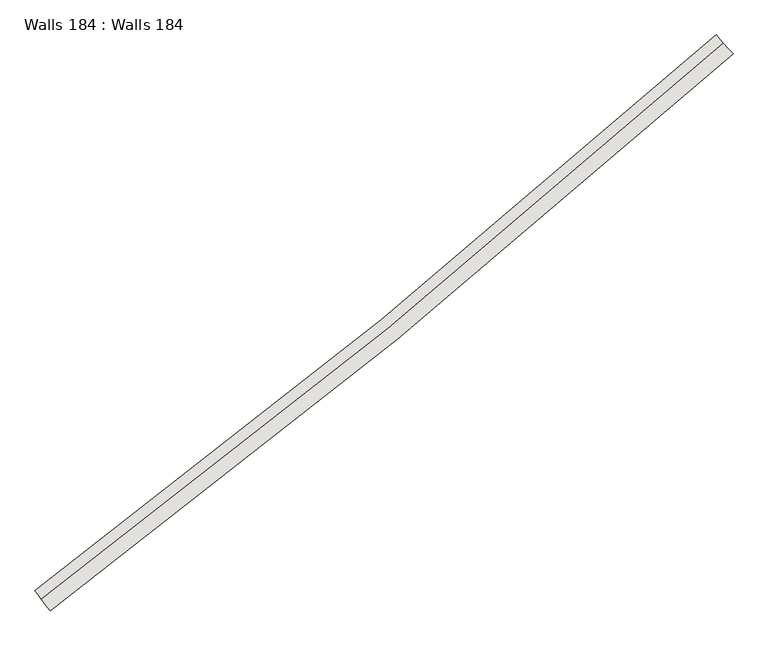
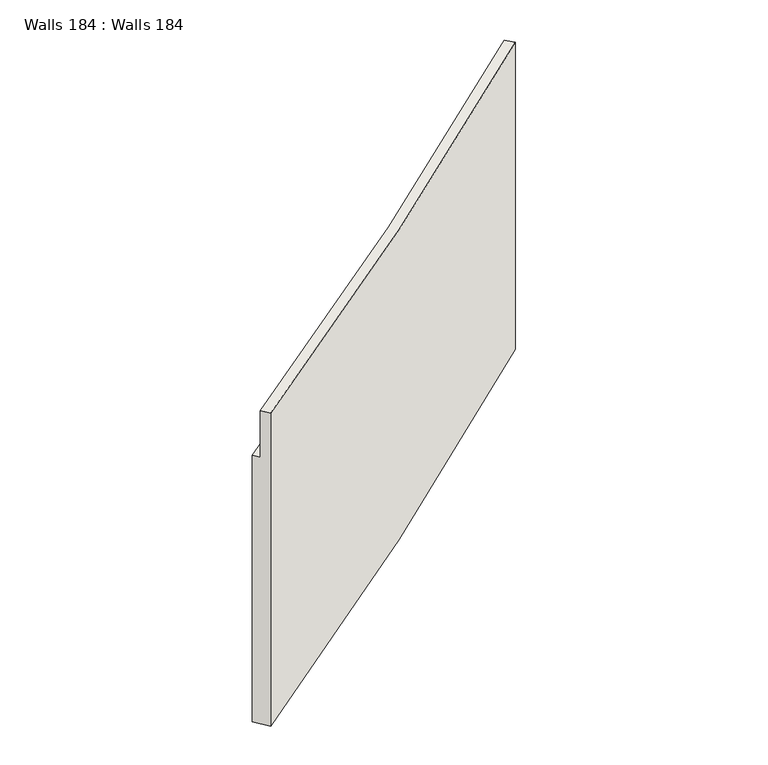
"""IFC4 building model written with IfcOpenShell, lengths in millimetres: wall geometry, Walls 184 : Walls 184."""

from ifc_helpers import new_model, si_unit, frame, origin, place, context, project, spatial, source, transform, mapped, element, save
from ifc_brep_helpers import plane_surface, spline_curve, spline_surface, advanced_brep


def walls_184_walls_184_67948a51(model_context):
    return source(origin(), model_context, "Body", "AdvancedBrep", [
        advanced_brep(
        [(317970.7590689, 234271.6354095, 643879.9926706), (318180.8504058, 233991.7039354, 643879.9926706), (318180.8504058, 233991.7039354, 650590.1663549), (318060.7982133, 234151.6647777, 650590.1663549), (318060.7982133, 234151.6647777, 649590.1663549), (317970.7590689, 234271.6354095, 649590.1663549), (327331.3709931, 241906.3993551, 644040.0505269), (327331.3709931, 241906.3993551, 649620.0505269), (327430.7926419, 241794.0813434, 649620.0505269), (327430.7926419, 241794.0813434, 650620.0505269), (327563.3548403, 241644.3239945, 650620.0505269), (327563.3548403, 241644.3239945, 644040.0505269)],
        [
            (0, 1),
            (1, 2),
            (2, 3),
            (3, 4),
            (4, 5),
            (5, 0),
            (6, 7),
            (7, 8),
            (8, 9),
            (9, 10),
            (10, 11),
            (11, 6),
            (11, 1, spline_curve(3, [(327563.3548403, 241644.3239945, 644040.0505269), (326051.942587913, 240306.452214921, 644013.374217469), (324513.522004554, 238999.092186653, 643986.697908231), (321385.170949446, 236447.525894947, 643933.345289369), (319795.240476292, 235203.319632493, 643906.668980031), (318180.8504058, 233991.7039354, 643879.9926706)], [4, 2, 4], [0.0, 19.844112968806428, 39.6882259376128])),
            (0, 6, spline_curve(3, [(317970.7590689, 234271.6354095, 643879.9926706), (319581.382229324, 235480.424003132, 643906.668980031), (321167.602864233, 236721.727118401, 643933.345289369), (324288.654434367, 239267.339754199, 643986.697908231), (325823.485369, 240571.649276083, 644013.374217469), (327331.3709931, 241906.3993551, 644040.0505269)], [4, 2, 4], [0.0, 19.84411296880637, 39.6882259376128])),
            (10, 2, spline_curve(3, [(327563.3548403, 241644.3239945, 650620.0505269), (326051.942587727, 240306.452214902, 650615.069831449), (324513.522004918, 238999.092186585, 650610.089136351), (321385.170949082, 236447.525895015, 650600.127745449), (319795.240476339, 235203.319632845, 650595.147050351), (318180.8504058, 233991.7039354, 650590.1663549)], [4, 2, 4], [0.0, 19.866163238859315, 39.73232647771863])),
            (9, 3, spline_curve(3, [(327430.7926419, 241794.0813434, 650620.0505269), (325921.395605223, 240457.993392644, 650615.069831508), (324385.02625031, 239152.376510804, 650610.089136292), (321260.84632909, 236604.212308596, 650600.127745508), (319673.035763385, 235361.664987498, 650595.147050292), (318060.7982133, 234151.6647777, 650590.1663549)], [4, 2, 4], [0.0, 19.85236918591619, 39.70473837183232])),
            (8, 4, spline_curve(3, [(327430.7926419, 241794.0813434, 649620.0505269), (325921.395605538, 240457.993392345, 649615.069831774), (324385.026250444, 239152.376511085, 649610.089136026), (321260.846328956, 236604.212308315, 649600.127745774), (319673.035763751, 235361.664987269, 649595.147050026), (318060.7982133, 234151.6647777, 649590.1663549)], [4, 2, 4], [0.0, 19.83912552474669, 39.678251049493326])),
            (7, 5, spline_curve(3, [(327331.3709931, 241906.3993551, 649620.0505269), (325823.485369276, 240571.649276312, 649615.06983158), (324288.65443395, 239267.339754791, 649610.08913622), (321167.60286465, 236721.727117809, 649600.12774558), (319581.382229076, 235480.424003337, 649595.14705022), (317970.7590689, 234271.6354095, 649590.1663549)], [4, 2, 4], [0.0, 19.829192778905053, 39.65838555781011])),
        ],
        [
            plane_surface(frame((318070.8025627, 234138.3347075, 648020.1084601), z_axis=(-0.7998042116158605, -0.6002609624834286, 0.0), x_axis=(0.6002609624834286, -0.7998042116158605, 0.0))),
            plane_surface(frame((327441.8394917, 241781.6015643, 648093.3838602), z_axis=(0.7487867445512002, 0.6628109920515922, 1.3196669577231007e-12), x_axis=(0.6628109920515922, -0.7487867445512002, 0.0))),
            spline_surface(3, 3, [[(327331.3709931, 241906.3993551, 644040.0505269), (325823.485368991, 240571.649276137, 644013.37421752), (324288.654434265, 239267.3397545, 643986.69790818), (321167.602864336, 236721.7271181, 643933.34528942), (319581.382229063, 235480.424003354, 643906.66897998), (317970.7590689, 234271.6354095, 643879.9926706)], [(327370.034967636, 241862.720128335, 644040.0505269), (325861.561572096, 240527.449765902, 644013.37421752), (324326.132362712, 239222.631826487, 643986.69790818), (321203.864211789, 236676.026914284, 643933.34528942), (319617.025270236, 235434.239941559, 643906.66897998), (318005.774291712, 234224.980163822, 643879.9926706)], [(327408.698942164, 241819.040901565, 644040.0505269), (325899.637775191, 240483.250255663, 644013.37421752), (324363.610291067, 239177.923898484, 643986.69790818), (321240.125559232, 236630.326710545, 643933.34528942), (319652.668311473, 235388.055879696, 643906.66897998), (318040.789514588, 234178.324918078, 643879.9926706)], [(327486.026891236, 241731.682448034, 644040.0505269), (325975.790181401, 240394.851235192, 644013.37421752), (324438.566147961, 239088.508042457, 643986.69790818), (321312.64825414, 236538.926302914, 643933.34528942), (319723.954393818, 235295.687756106, 643906.66897998), (318110.819960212, 234085.014426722, 643879.9926706)], [(327524.690865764, 241688.003221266, 644040.0505269), (326013.866384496, 240350.651724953, 644013.37421752), (324476.044076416, 239043.800114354, 643986.69790818), (321348.909601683, 236493.226099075, 643933.34528942), (319759.597434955, 235249.503694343, 643906.66897998), (318145.835182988, 234038.359181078, 643879.9926706)], [(327563.3548403, 241644.3239945, 644040.0505269), (326051.942587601, 240306.452214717, 644013.37421752), (324513.522004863, 238999.09218634, 643986.69790818), (321385.170949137, 236447.52589526, 643933.34528942), (319795.240476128, 235203.319632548, 643906.66897998), (318180.8504058, 233991.7039354, 643879.9926706)]], [4, 2, 4], [4, 2, 4], [0.0, 0.5741469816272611, 1.1482939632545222], [0.0, 19.844112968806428, 39.6882259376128]),
            spline_surface(3, 3, [[(327563.3548403, 241644.3239945, 644040.0505269), (326051.942587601, 240306.452214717, 644013.37421752), (324513.522004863, 238999.09218634, 643986.69790818), (321385.170949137, 236447.52589526, 643933.34528942), (319795.240476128, 235203.319632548, 643906.66897998), (318180.8504058, 233991.7039354, 643879.9926706)], [(327563.3548403, 241644.3239945, 645136.717193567), (326051.942587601, 240306.452214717, 645113.65681986), (324513.522004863, 238999.09218634, 645090.596446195), (321385.170949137, 236447.52589526, 645044.475698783), (319795.240476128, 235203.319632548, 645021.415325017), (318180.8504058, 233991.7039354, 644998.354951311)], [(327563.3548403, 241644.3239945, 646233.383860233), (326051.942587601, 240306.452214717, 646213.939422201), (324513.522004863, 238999.09218634, 646194.494984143), (321385.170949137, 236447.52589526, 646155.606108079), (319795.240476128, 235203.319632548, 646136.161670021), (318180.8504058, 233991.7039354, 646116.717231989)], [(327563.3548403, 241644.3239945, 648426.717193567), (326051.942587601, 240306.452214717, 648414.504626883), (324513.522004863, 238999.09218634, 648402.292060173), (321385.170949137, 236447.52589526, 648377.866926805), (319795.240476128, 235203.319632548, 648365.654360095), (318180.8504058, 233991.7039354, 648353.441793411)], [(327563.3548403, 241644.3239945, 649523.383860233), (326051.942587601, 240306.452214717, 649514.787229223), (324513.522004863, 238999.09218634, 649506.190598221), (321385.170949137, 236447.52589526, 649488.997336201), (319795.240476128, 235203.319632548, 649480.400705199), (318180.8504058, 233991.7039354, 649471.804074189)], [(327563.3548403, 241644.3239945, 650620.0505269), (326051.942587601, 240306.452214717, 650615.069831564), (324513.522004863, 238999.09218634, 650610.089136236), (321385.170949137, 236447.52589526, 650600.127745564), (319795.240476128, 235203.319632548, 650595.147050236), (318180.8504058, 233991.7039354, 650590.1663549)]], [4, 2, 4], [4, 2, 4], [0.0, 10.900733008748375, 21.80146601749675], [0.0, 19.866163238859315, 39.73232647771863]),
            spline_surface(3, 3, [[(327563.3548403, 241644.3239945, 650620.0505269), (326051.942587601, 240306.452214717, 650615.069831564), (324513.522004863, 238999.09218634, 650610.089136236), (321385.170949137, 236447.52589526, 650600.127745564), (319795.240476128, 235203.319632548, 650595.147050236), (318180.8504058, 233991.7039354, 650590.1663549)], [(327541.261140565, 241669.283552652, 650620.0505269), (326030.184757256, 240331.709077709, 650615.069831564), (324492.10604575, 239024.639573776, 650610.089136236), (321364.450179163, 236473.64029744, 650600.127745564), (319774.873024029, 235229.710525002, 650595.147050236), (318160.841707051, 234018.364075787, 650590.1663549)], [(327519.167440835, 241694.243110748, 650620.0505269), (326008.426926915, 240356.965940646, 650615.069831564), (324470.69008659, 239050.186961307, 650610.089136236), (321343.729409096, 236499.754699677, 650600.127745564), (319754.505571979, 235256.101417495, 650595.147050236), (318140.833008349, 234045.024216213, 650590.1663549)], [(327474.980041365, 241744.162227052, 650620.0505269), (325964.911266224, 240407.479666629, 650615.069831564), (324427.858168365, 239101.281736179, 650610.089136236), (321302.287869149, 236551.983504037, 650600.127745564), (319713.770667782, 235308.883202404, 650595.147050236), (318100.815610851, 234098.344496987, 650590.1663549)], [(327452.886341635, 241769.121785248, 650620.0505269), (325943.153435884, 240432.736529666, 650615.069831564), (324406.442209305, 239126.82912361, 650610.089136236), (321281.567099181, 236578.097906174, 650600.127745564), (319693.403215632, 235335.274094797, 650595.147050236), (318080.806912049, 234125.004637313, 650590.1663549)], [(327430.7926419, 241794.0813434, 650620.0505269), (325921.395605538, 240457.993392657, 650615.069831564), (324385.026250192, 239152.376511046, 650610.089136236), (321260.846329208, 236604.212308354, 650600.127745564), (319673.035763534, 235361.664987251, 650595.147050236), (318060.7982133, 234151.6647777, 650590.1663549)]], [4, 2, 4], [4, 2, 4], [0.0, 0.3280839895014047, 0.6561679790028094], [0.0, 19.85236918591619, 39.70473837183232]),
            spline_surface(3, 3, [[(327430.7926419, 241794.0813434, 650620.0505269), (325921.395605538, 240457.993392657, 650615.069831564), (324385.026250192, 239152.376511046, 650610.089136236), (321260.846329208, 236604.212308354, 650600.127745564), (319673.035763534, 235361.664987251, 650595.147050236), (318060.7982133, 234151.6647777, 650590.1663549)], [(327430.7926419, 241794.0813434, 650453.383860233), (325921.395605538, 240457.993392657, 650448.403164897), (324385.026250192, 239152.376511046, 650443.422469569), (321260.846329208, 236604.212308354, 650433.461078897), (319673.035763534, 235361.664987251, 650428.480383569), (318060.7982133, 234151.6647777, 650423.499688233)], [(327430.7926419, 241794.0813434, 650286.717193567), (325921.395605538, 240457.993392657, 650281.736498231), (324385.026250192, 239152.376511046, 650276.755802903), (321260.846329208, 236604.212308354, 650266.794412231), (319673.035763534, 235361.664987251, 650261.813716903), (318060.7982133, 234151.6647777, 650256.833021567)], [(327430.7926419, 241794.0813434, 649953.383860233), (325921.395605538, 240457.993392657, 649948.403164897), (324385.026250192, 239152.376511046, 649943.422469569), (321260.846329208, 236604.212308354, 649933.461078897), (319673.035763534, 235361.664987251, 649928.480383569), (318060.7982133, 234151.6647777, 649923.499688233)], [(327430.7926419, 241794.0813434, 649786.717193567), (325921.395605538, 240457.993392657, 649781.736498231), (324385.026250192, 239152.376511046, 649776.755802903), (321260.846329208, 236604.212308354, 649766.794412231), (319673.035763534, 235361.664987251, 649761.813716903), (318060.7982133, 234151.6647777, 649756.833021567)], [(327430.7926419, 241794.0813434, 649620.0505269), (325921.395605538, 240457.993392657, 649615.069831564), (324385.026250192, 239152.376511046, 649610.089136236), (321260.846329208, 236604.212308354, 649600.127745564), (319673.035763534, 235361.664987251, 649595.147050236), (318060.7982133, 234151.6647777, 649590.1663549)]], [4, 2, 4], [4, 2, 4], [0.0, 1.6404199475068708, 3.2808398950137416], [0.0, 19.83912552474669, 39.678251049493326]),
            spline_surface(3, 3, [[(327430.7926419, 241794.0813434, 649620.0505269), (325921.395605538, 240457.993392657, 649615.069831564), (324385.026250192, 239152.376511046, 649610.089136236), (321260.846329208, 236604.212308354, 649600.127745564), (319673.035763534, 235361.664987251, 649595.147050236), (318060.7982133, 234151.6647777, 649590.1663549)], [(327414.222367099, 241812.801012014, 649620.0505269), (325905.077232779, 240476.936039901, 649615.069831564), (324368.964280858, 239171.537051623, 649610.089136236), (321245.305751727, 236623.798109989, 649600.127745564), (319657.76017446, 235381.458156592, 649595.147050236), (318045.791689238, 234171.65988299, 649590.1663549)], [(327397.652092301, 241831.520680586, 649620.0505269), (325888.758860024, 240495.878687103, 649615.069831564), (324352.902311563, 239190.697592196, 649610.089136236), (321229.765174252, 236643.383911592, 649600.127745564), (319642.484585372, 235401.251325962, 649595.147050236), (318030.785165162, 234191.65498831, 649590.1663549)], [(327364.511542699, 241868.960017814, 649620.0505269), (325856.122114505, 240533.763981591, 649615.069831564), (324320.778372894, 239229.01867335, 649610.089136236), (321198.684019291, 236682.555514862, 649600.127745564), (319611.933407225, 235440.837664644, 649595.147050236), (318000.772117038, 234231.64519889, 649590.1663549)], [(327347.941267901, 241887.679686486, 649620.0505269), (325839.80374175, 240552.706628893, 649615.069831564), (324304.716403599, 239248.179213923, 649610.089136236), (321183.143441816, 236702.141316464, 649600.127745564), (319596.657818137, 235460.630834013, 649595.147050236), (317985.765592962, 234251.64030421, 649590.1663549)], [(327331.3709931, 241906.3993551, 649620.0505269), (325823.485368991, 240571.649276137, 649615.069831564), (324288.654434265, 239267.3397545, 649610.089136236), (321167.602864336, 236721.7271181, 649600.127745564), (319581.382229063, 235480.424003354, 649595.147050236), (317970.7590689, 234271.6354095, 649590.1663549)]], [4, 2, 4], [4, 2, 4], [0.0, 0.24606299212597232, 0.49212598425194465], [0.0, 19.829192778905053, 39.65838555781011]),
            spline_surface(3, 3, [[(327331.3709931, 241906.3993551, 649620.0505269), (325823.485368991, 240571.649276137, 649615.069831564), (324288.654434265, 239267.3397545, 649610.089136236), (321167.602864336, 236721.7271181, 649600.127745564), (319581.382229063, 235480.424003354, 649595.147050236), (317970.7590689, 234271.6354095, 649590.1663549)], [(327331.3709931, 241906.3993551, 648690.0505269), (325823.485368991, 240571.649276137, 648681.45389589), (324288.654434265, 239267.3397545, 648672.857264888), (321167.602864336, 236721.7271181, 648655.664002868), (319581.382229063, 235480.424003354, 648647.067371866), (317970.7590689, 234271.6354095, 648638.470740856)], [(327331.3709931, 241906.3993551, 647760.0505269), (325823.485368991, 240571.649276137, 647747.837960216), (324288.654434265, 239267.3397545, 647735.625393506), (321167.602864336, 236721.7271181, 647711.200260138), (319581.382229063, 235480.424003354, 647698.987693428), (317970.7590689, 234271.6354095, 647686.775126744)], [(327331.3709931, 241906.3993551, 645900.0505269), (325823.485368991, 240571.649276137, 645880.606088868), (324288.654434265, 239267.3397545, 645861.16165081), (321167.602864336, 236721.7271181, 645822.272774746), (319581.382229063, 235480.424003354, 645802.828336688), (317970.7590689, 234271.6354095, 645783.383898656)], [(327331.3709931, 241906.3993551, 644970.0505269), (325823.485368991, 240571.649276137, 644946.990153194), (324288.654434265, 239267.3397545, 644923.929779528), (321167.602864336, 236721.7271181, 644877.809032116), (319581.382229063, 235480.424003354, 644854.74865835), (317970.7590689, 234271.6354095, 644831.688284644)], [(327331.3709931, 241906.3993551, 644040.0505269), (325823.485368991, 240571.649276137, 644013.37421752), (324288.654434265, 239267.3397545, 643986.69790818), (321167.602864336, 236721.7271181, 643933.34528942), (319581.382229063, 235480.424003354, 643906.66897998), (317970.7590689, 234271.6354095, 643879.9926706)]], [4, 2, 4], [4, 2, 4], [0.0, 9.260313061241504, 18.52062612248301], [0.0, 19.819811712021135, 39.63962342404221]),
        ],
        [
            (0, [[1, 2, 3, 4, 5, 6]]),
            (1, [[7, 8, 9, 10, 11, 12]]),
            (2, [[-12, 13, -1, 14]]),
            (3, [[-11, 15, -2, -13]]),
            (4, [[-10, 16, -3, -15]]),
            (5, [[-9, 17, -4, -16]]),
            (6, [[-8, 18, -5, -17]]),
            (7, [[-7, -14, -6, -18]]),
        ],
    ),
    ])


if __name__ == "__main__":
    model = new_model("IFC4")
    model_context = context("Model", 3, world=origin())
    ifc_project = project(units=[si_unit("LENGTHUNIT", "METRE", prefix="MILLI")], contexts=[model_context])
    site = spatial("IfcSite", under=ifc_project)
    building = spatial("IfcBuilding", under=site)
    placement = place(None, origin())
    walls_184_walls_184_shape = walls_184_walls_184_67948a51(model_context)
    element("IfcWall", 1, ObjectType="Walls 184 : Walls 184", at=placement, inside=building, context=model_context, shape_type="MappedRepresentation", body=[
        mapped(walls_184_walls_184_shape, transform((0.0, 0.0, 0.0), x_axis=(1.0, 0.0, 0.0), y_axis=(0.0, 1.0, 0.0), z_axis=(0.0, 0.0, 1.0))),
    ])
    save(model, "model.ifc")
